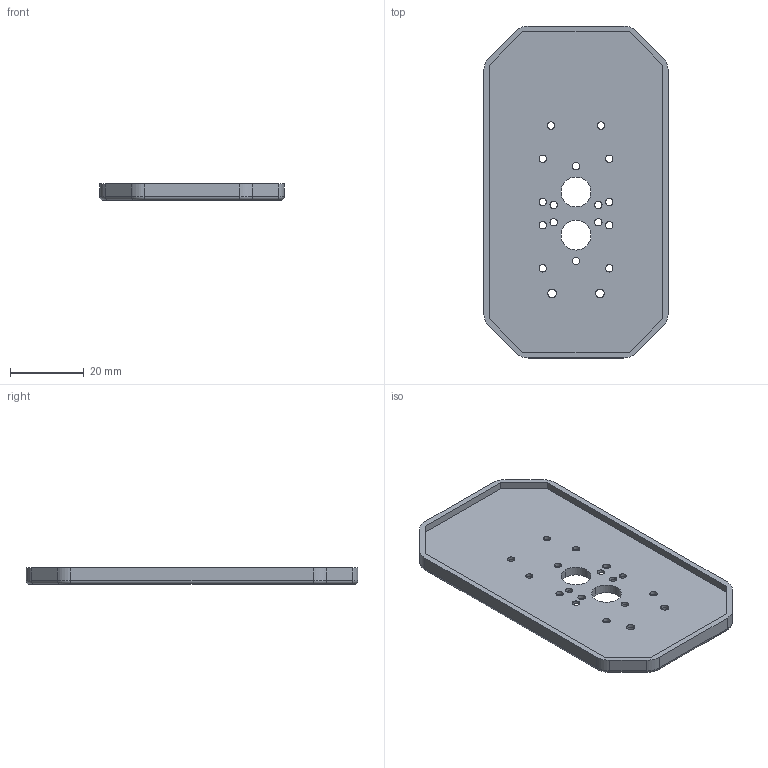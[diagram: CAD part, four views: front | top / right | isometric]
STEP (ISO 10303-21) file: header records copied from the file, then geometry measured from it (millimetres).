
FILE_DESCRIPTION((''),'2;1');
FILE_NAME('SCALETON_FOOT','2011-03-07T',('Administrator'),(''),'PRO/ENGINEER BY PARAMETRIC TECHNOLOGY CORPORATION, 2010330','PRO/ENGINEER BY PARAMETRIC TECHNOLOGY CORPORATION, 2010330','');
FILE_SCHEMA(('CONFIG_CONTROL_DESIGN'));
Length unit declared in the file: millimetre
Products named in the file (1): SCALETON_FOOT
Bounding box: 50 x 90 x 4.5 mm (x, y, z)
Volume: 10769.6 mm3; surface area: 10354.9 mm2
Topology: 1 solids, 1 shells, 125 faces, 308 edges, 200 vertices
Faces by surface type: cylinder 84, plane 33, torus 8
Entity records: 3888 total; most frequent: DIRECTION 734, CARTESIAN_POINT 633, ORIENTED_EDGE 616, EDGE_CURVE 308, AXIS2_PLACEMENT_3D 301, VERTEX_POINT 200, EDGE_LOOP 180, CIRCLE 176
